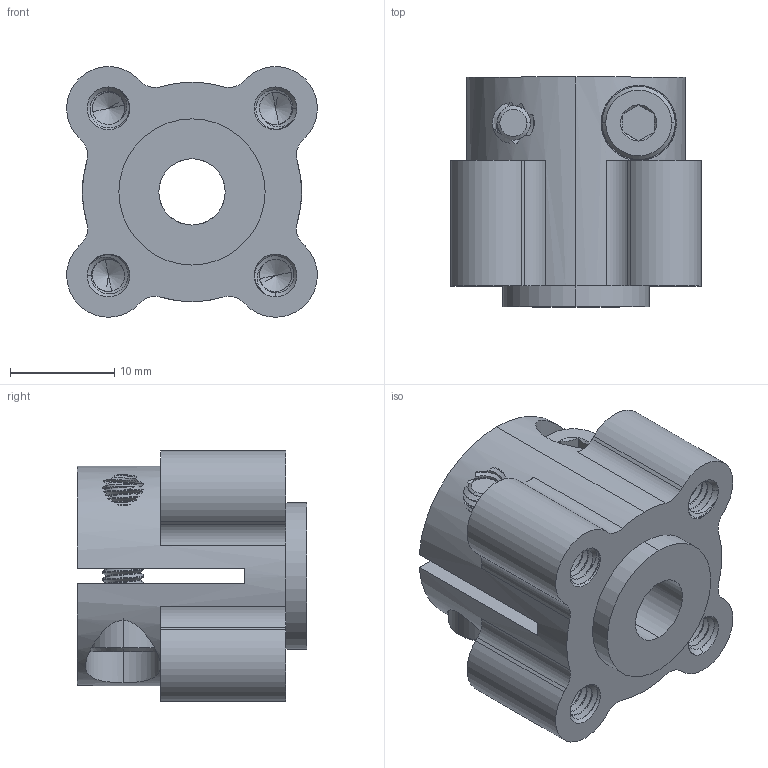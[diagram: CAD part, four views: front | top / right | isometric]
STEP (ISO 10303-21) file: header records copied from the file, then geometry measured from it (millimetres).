
FILE_DESCRIPTION (( 'STEP AP203' ), '1' );
FILE_NAME ('1310-0016-0250 assembly.STEP', '2020-11-18T19:28:21', ( '' ), ( '' ), 'SwSTEP 2.0', 'SolidWorks 2016', '' );
FILE_SCHEMA (( 'CONFIG_CONTROL_DESIGN' ));
Length unit declared in the file: millimetre
Products named in the file (3): 1310-0016-0250; 1310-0016-0250 assembly; 2800-0004-0012_90128A207
Assembly tree (3 placements, depth 2):
  1310-0016-0250 assembly
    1310-0016-0250
    2800-0004-0012_90128A207  x2
Bounding box: 23.99 x 22 x 23.98 mm (x, y, z)
Volume: 7297 mm3; surface area: 5398.5 mm2
Topology: 3 solids, 3 shells, 590 faces, 1688 edges, 1104 vertices
Faces by surface type: cylinder 462, plane 52, cone 46, bspline 30
Entity records: 49393 total; most frequent: CARTESIAN_POINT 38388, ORIENTED_EDGE 2842, DIRECTION 1702, EDGE_CURVE 1421, VERTEX_POINT 937, AXIS2_PLACEMENT_3D 628, EDGE_LOOP 510, ADVANCED_FACE 494
